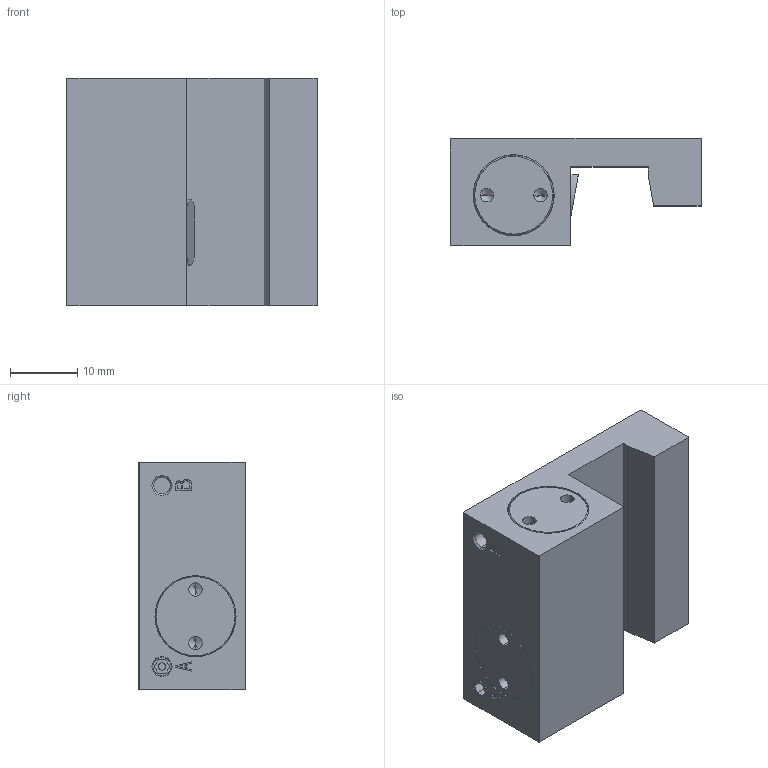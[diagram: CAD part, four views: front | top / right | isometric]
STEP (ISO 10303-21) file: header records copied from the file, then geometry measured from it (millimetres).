
FILE_DESCRIPTION( ( '' ), '1' );
FILE_NAME( 'E:/04 嬴檜蠱滌/0404 ZIMMER/040414 ZIMMER CAD download/MCP/MCP1201M---.stp', '2020-04-16T10:02:14', ( '' ), ( '' ), ' ', ' ', ' ' );
FILE_SCHEMA( ( 'automotive_design' ) );
Length unit declared in the file: millimetre
Products named in the file (1): 1
Bounding box: 37.5 x 16.05 x 34 mm (x, y, z)
Volume: 14081.7 mm3; surface area: 5267.6 mm2
Topology: 1 solids, 1 shells, 116 faces, 271 edges, 170 vertices
Faces by surface type: plane 62, cylinder 32, cone 22
Entity records: 6356 total; most frequent: DIRECTION 577, STYLED_ITEM 550, PRESENTATION_STYLE_ASSIGNMENT 550, CARTESIAN_POINT 550, COLOUR_RGB 550, ORIENTED_EDGE 526, EDGE_CURVE 263, CURVE_STYLE 263
